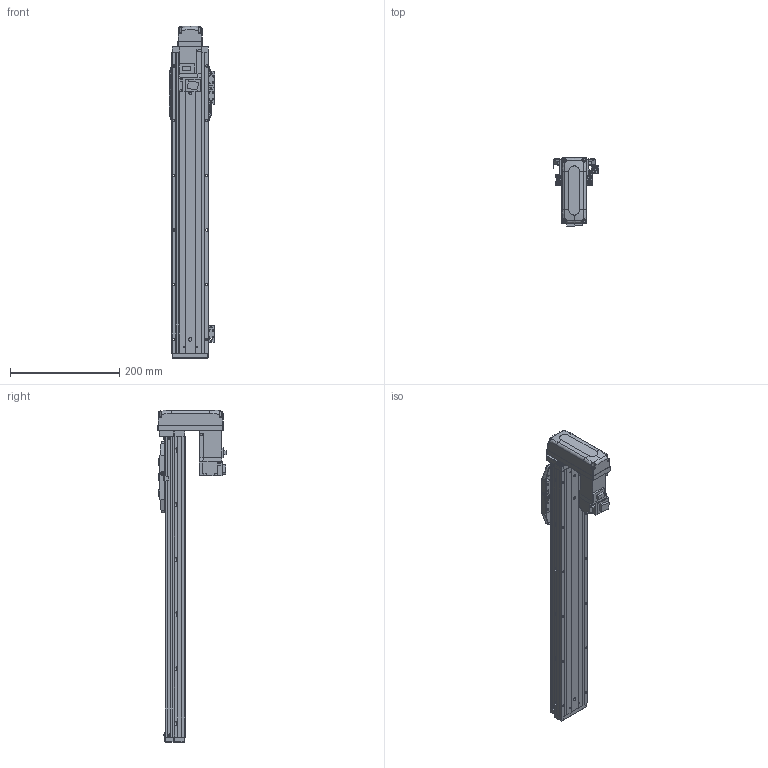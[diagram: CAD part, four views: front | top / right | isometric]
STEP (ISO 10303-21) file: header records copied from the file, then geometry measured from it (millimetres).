
FILE_DESCRIPTION (( 'STEP AP203' ), '1' );
FILE_NAME ('CTHA60-400-BM-M10-C4L.step', '2022-03-19T06:17:36', ( '微软用户' ), ( '微软中国' ), 'SwSTEP 2.0', 'SolidWorks 2020', '' );
FILE_SCHEMA (( 'CONFIG_CONTROL_DESIGN' ));
Length unit declared in the file: millimetre
Products named in the file (18): CTHA60-021; CTHA60-031; CTHA60-001_550; GBT77-2000 M3×3; GBT 70.1-M4×16; CTHA60-006-1; CTHA60-004; GBT 70.1-M3℅6; CTHA60-033; CTHA60-005; GBT 70.3-M3℅6; CTHA60-400-BM-M10-C4L; GB¨uT 70.2-M3¡Á6_M3¡Á6; CTHA60-016; EE_SX911P_R; HG-KR13（三菱）; CTHA60-017; CTHA60-002
Assembly tree (54 placements, depth 2):
  CTHA60-400-BM-M10-C4L
    CTHA60-001_550
    CTHA60-004
    CTHA60-005
    GB¨uT 70.2-M3¡Á6_M3¡Á6  x10
    EE_SX911P_R  x3
    CTHA60-017  x3
    CTHA60-021  x2
    GBT 70.1-M4×16  x10
    GBT77-2000 M3×3  x6
    GBT 70.1-M3℅6  x6
    GBT 70.3-M3℅6  x4
    CTHA60-016  x2
    HG-KR13（三菱）
    CTHA60-002
    CTHA60-031
    CTHA60-006-1
    CTHA60-033
Bounding box: 83.12 x 125.3 x 607 mm (x, y, z)
Volume: 1118476.3 mm3; surface area: 344510.6 mm2
Topology: 56 solids, 56 shells, 2494 faces, 5981 edges, 3685 vertices
Faces by surface type: plane 1437, cylinder 571, cone 338, torus 92, bspline 32, sphere 24
Entity records: 44365 total; most frequent: CARTESIAN_POINT 8586, DIRECTION 6836, ORIENTED_EDGE 6770, EDGE_CURVE 3385, LINE 2400, VECTOR 2400, AXIS2_PLACEMENT_3D 2218, VERTEX_POINT 2144
